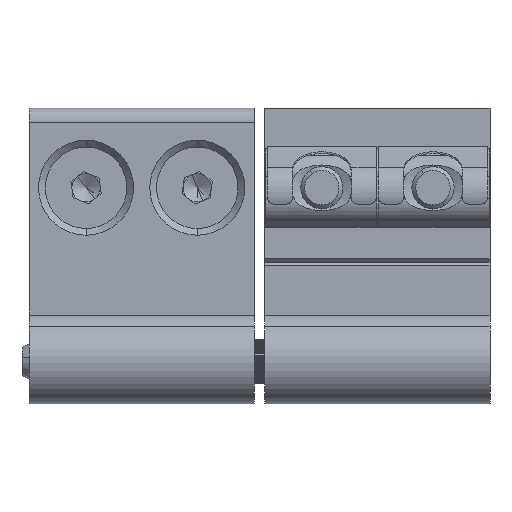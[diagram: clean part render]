
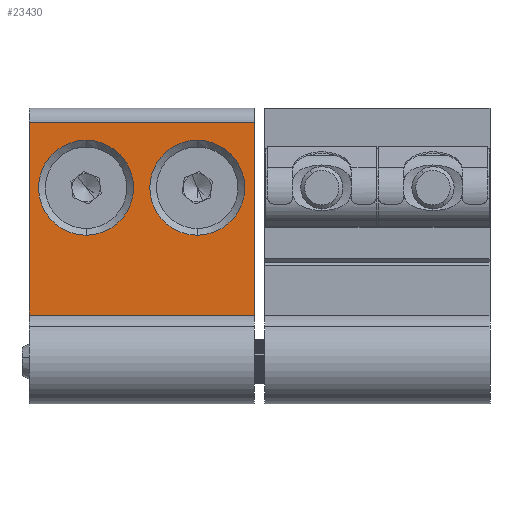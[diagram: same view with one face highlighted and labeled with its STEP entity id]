
A CAD part, front view. The second image highlights one B-rep face of the part: STEP entity #23430.
In plain terms, the highlighted planar face has unit normal (0, -1, 0).
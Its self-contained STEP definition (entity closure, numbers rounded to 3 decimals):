
#129 = CIRCLE ( 'NONE', #12342, 6.75 ) ;
#784 = CARTESIAN_POINT ( 'NONE',  ( 637.421, 891.809, 1264.476 ) ) ;
#2053 = DIRECTION ( 'NONE',  ( 0., -1., 0. ) ) ;
#2275 = EDGE_LOOP ( 'NONE', ( #13679, #13990 ) ) ;
#2767 = FACE_BOUND ( 'NONE', #2275, .T. ) ;
#3540 = ORIENTED_EDGE ( 'NONE', *, *, #5926, .T. ) ;
#3942 = CARTESIAN_POINT ( 'NONE',  ( 645.521, 891.809, 1280.526 ) ) ;
#4434 = CARTESIAN_POINT ( 'NONE',  ( 645.521, 891.809, 1280.526 ) ) ;
#4460 = VERTEX_POINT ( 'NONE', #7180 ) ;
#4636 = VECTOR ( 'NONE', #10726, 1000. ) ;
#4802 = VECTOR ( 'NONE', #15061, 1000. ) ;
#5287 = DIRECTION ( 'NONE',  ( 0., -1., 0. ) ) ;
#5926 = EDGE_CURVE ( 'NONE', #18453, #4460, #15208, .T. ) ;
#6549 = DIRECTION ( 'NONE',  ( 0., 0., -1. ) ) ;
#6876 = EDGE_CURVE ( 'NONE', #8578, #19898, #15894, .T. ) ;
#6966 = CARTESIAN_POINT ( 'NONE',  ( 613.521, 891.809, 1280.526 ) ) ;
#7180 = CARTESIAN_POINT ( 'NONE',  ( 613.521, 891.809, 1253.141 ) ) ;
#7655 = DIRECTION ( 'NONE',  ( 0., 0., -1. ) ) ;
#7796 = CARTESIAN_POINT ( 'NONE',  ( 637.421, 891.809, 1271.226 ) ) ;
#8578 = VERTEX_POINT ( 'NONE', #13361 ) ;
#9677 = VERTEX_POINT ( 'NONE', #784 ) ;
#9975 = CARTESIAN_POINT ( 'NONE',  ( 621.621, 891.809, 1271.226 ) ) ;
#10236 = ORIENTED_EDGE ( 'NONE', *, *, #15848, .T. ) ;
#10726 = DIRECTION ( 'NONE',  ( 1., 0., 0. ) ) ;
#10756 = FACE_BOUND ( 'NONE', #33732, .T. ) ;
#10783 = CARTESIAN_POINT ( 'NONE',  ( 645.521, 891.809, 1253.141 ) ) ;
#10861 = VECTOR ( 'NONE', #18470, 1000. ) ;
#12342 = AXIS2_PLACEMENT_3D ( 'NONE', #25026, #33330, #6549 ) ;
#12902 = EDGE_CURVE ( 'NONE', #9677, #26140, #129, .T. ) ;
#13361 = CARTESIAN_POINT ( 'NONE',  ( 621.621, 891.809, 1277.976 ) ) ;
#13679 = ORIENTED_EDGE ( 'NONE', *, *, #12902, .F. ) ;
#13990 = ORIENTED_EDGE ( 'NONE', *, *, #14754, .F. ) ;
#14407 = VECTOR ( 'NONE', #28956, 1000. ) ;
#14754 = EDGE_CURVE ( 'NONE', #26140, #9677, #16363, .T. ) ;
#15061 = DIRECTION ( 'NONE',  ( -1., 0., 0. ) ) ;
#15208 = LINE ( 'NONE', #18350, #14407 ) ;
#15677 = ORIENTED_EDGE ( 'NONE', *, *, #26093, .T. ) ;
#15848 = EDGE_CURVE ( 'NONE', #28060, #18453, #33664, .T. ) ;
#15894 = CIRCLE ( 'NONE', #18118, 6.75 ) ;
#15925 = ORIENTED_EDGE ( 'NONE', *, *, #6876, .F. ) ;
#16363 = CIRCLE ( 'NONE', #16928, 6.75 ) ;
#16928 = AXIS2_PLACEMENT_3D ( 'NONE', #7796, #2053, #28842 ) ;
#18096 = CARTESIAN_POINT ( 'NONE',  ( 621.621, 891.809, 1264.476 ) ) ;
#18118 = AXIS2_PLACEMENT_3D ( 'NONE', #9975, #5287, #20633 ) ;
#18350 = CARTESIAN_POINT ( 'NONE',  ( 613.521, 891.809, 1280.526 ) ) ;
#18453 = VERTEX_POINT ( 'NONE', #6966 ) ;
#18470 = DIRECTION ( 'NONE',  ( 0., 0., 1. ) ) ;
#18554 = ORIENTED_EDGE ( 'NONE', *, *, #26761, .T. ) ;
#19898 = VERTEX_POINT ( 'NONE', #18096 ) ;
#20633 = DIRECTION ( 'NONE',  ( 0., 0., -1. ) ) ;
#21373 = CARTESIAN_POINT ( 'NONE',  ( 613.521, 891.809, 1253.141 ) ) ;
#23104 = EDGE_CURVE ( 'NONE', #19898, #8578, #30552, .T. ) ;
#23430 = ADVANCED_FACE ( 'NONE', ( #10756, #2767, #26619 ), #26786, .T. ) ;
#23874 = LINE ( 'NONE', #26465, #10861 ) ;
#23983 = LINE ( 'NONE', #21373, #4636 ) ;
#25026 = CARTESIAN_POINT ( 'NONE',  ( 637.421, 891.809, 1271.226 ) ) ;
#25522 = CARTESIAN_POINT ( 'NONE',  ( 637.421, 891.809, 1277.976 ) ) ;
#25598 = AXIS2_PLACEMENT_3D ( 'NONE', #31660, #29049, #7655 ) ;
#26093 = EDGE_CURVE ( 'NONE', #4460, #33852, #23983, .T. ) ;
#26140 = VERTEX_POINT ( 'NONE', #25522 ) ;
#26465 = CARTESIAN_POINT ( 'NONE',  ( 645.521, 891.809, 1253.141 ) ) ;
#26619 = FACE_OUTER_BOUND ( 'NONE', #33999, .T. ) ;
#26663 = ORIENTED_EDGE ( 'NONE', *, *, #23104, .F. ) ;
#26761 = EDGE_CURVE ( 'NONE', #33852, #28060, #23874, .T. ) ;
#26786 = PLANE ( 'NONE',  #25598 ) ;
#28060 = VERTEX_POINT ( 'NONE', #3942 ) ;
#28579 = DIRECTION ( 'NONE',  ( 0., 0., -1. ) ) ;
#28751 = DIRECTION ( 'NONE',  ( 0., -1., 0. ) ) ;
#28842 = DIRECTION ( 'NONE',  ( 0., 0., -1. ) ) ;
#28956 = DIRECTION ( 'NONE',  ( 0., 0., -1. ) ) ;
#29049 = DIRECTION ( 'NONE',  ( 0., -1., 0. ) ) ;
#29442 = AXIS2_PLACEMENT_3D ( 'NONE', #34118, #28751, #28579 ) ;
#30552 = CIRCLE ( 'NONE', #29442, 6.75 ) ;
#31660 = CARTESIAN_POINT ( 'NONE',  ( 646.161, 891.809, 1266.834 ) ) ;
#33330 = DIRECTION ( 'NONE',  ( 0., -1., 0. ) ) ;
#33664 = LINE ( 'NONE', #4434, #4802 ) ;
#33732 = EDGE_LOOP ( 'NONE', ( #26663, #15925 ) ) ;
#33852 = VERTEX_POINT ( 'NONE', #10783 ) ;
#33999 = EDGE_LOOP ( 'NONE', ( #15677, #18554, #10236, #3540 ) ) ;
#34118 = CARTESIAN_POINT ( 'NONE',  ( 621.621, 891.809, 1271.226 ) ) ;
